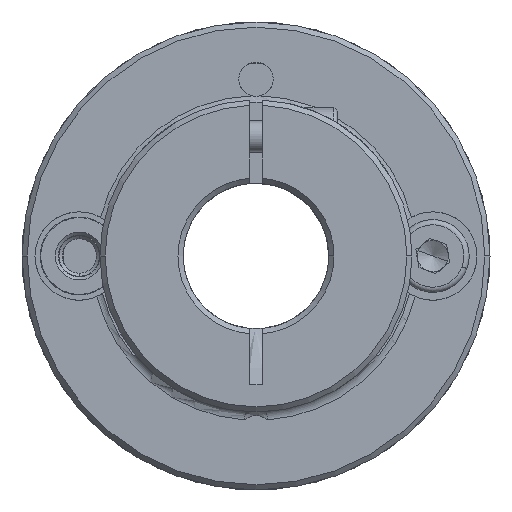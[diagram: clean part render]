
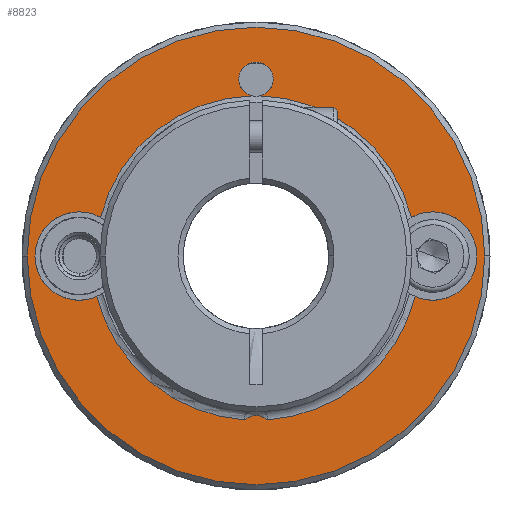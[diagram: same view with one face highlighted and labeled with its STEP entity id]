
A CAD part, front view. The second image highlights one B-rep face of the part: STEP entity #8823.
In plain terms, the highlighted planar face has unit normal (0, -1, 0).
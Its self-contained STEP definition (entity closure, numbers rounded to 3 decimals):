
#87 = CARTESIAN_POINT ( 'NONE',  ( -9.653, -8.743, 45. ) ) ;
#190 = CIRCLE ( 'NONE', #1607, 4.25 ) ;
#362 = DIRECTION ( 'NONE',  ( 0., 0., -1. ) ) ;
#365 = AXIS2_PLACEMENT_3D ( 'NONE', #5401, #8931, #13171 ) ;
#409 = DIRECTION ( 'NONE',  ( 1., 0., 0. ) ) ;
#542 = DIRECTION ( 'NONE',  ( 0., 1., 0. ) ) ;
#550 = DIRECTION ( 'NONE',  ( 1., 0., 0. ) ) ;
#602 = DIRECTION ( 'NONE',  ( 0., 1., 0. ) ) ;
#708 = CIRCLE ( 'NONE', #2021, 15.4 ) ;
#805 = CARTESIAN_POINT ( 'NONE',  ( -11.303, -8.743, 62. ) ) ;
#842 = CARTESIAN_POINT ( 'NONE',  ( -8.003, -8.743, 62. ) ) ;
#940 = DIRECTION ( 'NONE',  ( 1., 0., 0. ) ) ;
#960 = EDGE_CURVE ( 'NONE', #7378, #2301, #6361, .T. ) ;
#1459 = ORIENTED_EDGE ( 'NONE', *, *, #3843, .T. ) ;
#1490 = AXIS2_PLACEMENT_3D ( 'NONE', #1753, #7360, #13252 ) ;
#1559 = VERTEX_POINT ( 'NONE', #2518 ) ;
#1607 = AXIS2_PLACEMENT_3D ( 'NONE', #3873, #13170, #550 ) ;
#1753 = CARTESIAN_POINT ( 'NONE',  ( -9.653, -8.743, 45. ) ) ;
#1957 = CARTESIAN_POINT ( 'NONE',  ( 7.347, -8.743, 45. ) ) ;
#2021 = AXIS2_PLACEMENT_3D ( 'NONE', #5024, #8541, #10966 ) ;
#2198 = EDGE_CURVE ( 'NONE', #2301, #13811, #4316, .T. ) ;
#2301 = VERTEX_POINT ( 'NONE', #842 ) ;
#2465 = DIRECTION ( 'NONE',  ( 0., 1., 0. ) ) ;
#2518 = CARTESIAN_POINT ( 'NONE',  ( -24.964, -8.743, 41.1 ) ) ;
#2651 = DIRECTION ( 'NONE',  ( 0., -1., 0. ) ) ;
#2746 = CARTESIAN_POINT ( 'NONE',  ( -9.653, -8.743, 45. ) ) ;
#2936 = CARTESIAN_POINT ( 'NONE',  ( -9.653, -8.743, 62. ) ) ;
#3022 = VERTEX_POINT ( 'NONE', #9041 ) ;
#3174 = VERTEX_POINT ( 'NONE', #13854 ) ;
#3222 = CIRCLE ( 'NONE', #1490, 22. ) ;
#3289 = DIRECTION ( 'NONE',  ( 0., -1., 0. ) ) ;
#3466 = AXIS2_PLACEMENT_3D ( 'NONE', #5615, #3289, #6823 ) ;
#3588 = CIRCLE ( 'NONE', #4298, 1.65 ) ;
#3614 = EDGE_CURVE ( 'NONE', #7995, #3022, #5939, .T. ) ;
#3784 = AXIS2_PLACEMENT_3D ( 'NONE', #11633, #8203, #14174 ) ;
#3803 = VERTEX_POINT ( 'NONE', #14481 ) ;
#3820 = CARTESIAN_POINT ( 'NONE',  ( -9.27, -8.743, 60.395 ) ) ;
#3843 = EDGE_CURVE ( 'NONE', #5485, #7995, #7743, .T. ) ;
#3873 = CARTESIAN_POINT ( 'NONE',  ( -26.653, -8.743, 45. ) ) ;
#4298 = AXIS2_PLACEMENT_3D ( 'NONE', #2936, #542, #940 ) ;
#4316 = CIRCLE ( 'NONE', #365, 1.65 ) ;
#4329 = AXIS2_PLACEMENT_3D ( 'NONE', #2746, #10850, #12017 ) ;
#4909 = CARTESIAN_POINT ( 'NONE',  ( -31.653, -8.743, 45. ) ) ;
#5024 = CARTESIAN_POINT ( 'NONE',  ( -9.653, -8.743, 45. ) ) ;
#5073 = VERTEX_POINT ( 'NONE', #11583 ) ;
#5378 = EDGE_LOOP ( 'NONE', ( #7204, #10029 ) ) ;
#5401 = CARTESIAN_POINT ( 'NONE',  ( -9.653, -8.743, 62. ) ) ;
#5485 = VERTEX_POINT ( 'NONE', #8551 ) ;
#5570 = DIRECTION ( 'NONE',  ( 0., 1., 0. ) ) ;
#5615 = CARTESIAN_POINT ( 'NONE',  ( -9.653, -8.743, 28. ) ) ;
#5731 = CARTESIAN_POINT ( 'NONE',  ( 5.291, -8.743, 48.72 ) ) ;
#5746 = ORIENTED_EDGE ( 'NONE', *, *, #2198, .T. ) ;
#5773 = FACE_OUTER_BOUND ( 'NONE', #5378, .T. ) ;
#5827 = AXIS2_PLACEMENT_3D ( 'NONE', #14257, #2651, #362 ) ;
#5908 = CARTESIAN_POINT ( 'NONE',  ( -8.562, -8.743, 29.238 ) ) ;
#5939 = CIRCLE ( 'NONE', #8354, 15.4 ) ;
#5945 = CARTESIAN_POINT ( 'NONE',  ( -24.597, -8.743, 48.72 ) ) ;
#6361 = CIRCLE ( 'NONE', #14454, 1.65 ) ;
#6370 = CIRCLE ( 'NONE', #12591, 4.25 ) ;
#6560 = VERTEX_POINT ( 'NONE', #14957 ) ;
#6646 = DIRECTION ( 'NONE',  ( 1., 0., 0. ) ) ;
#6651 = VERTEX_POINT ( 'NONE', #4909 ) ;
#6823 = DIRECTION ( 'NONE',  ( -0.802, 0., 0.597 ) ) ;
#6910 = EDGE_CURVE ( 'NONE', #3174, #3803, #6370, .T. ) ;
#7083 = EDGE_CURVE ( 'NONE', #1559, #5485, #190, .T. ) ;
#7204 = ORIENTED_EDGE ( 'NONE', *, *, #14340, .T. ) ;
#7309 = CIRCLE ( 'NONE', #13008, 15.8 ) ;
#7360 = DIRECTION ( 'NONE',  ( 0., -1., 0. ) ) ;
#7378 = VERTEX_POINT ( 'NONE', #805 ) ;
#7476 = CARTESIAN_POINT ( 'NONE',  ( -26.653, -8.743, 45. ) ) ;
#7743 = CIRCLE ( 'NONE', #8853, 4.25 ) ;
#7850 = PLANE ( 'NONE',  #3466 ) ;
#7995 = VERTEX_POINT ( 'NONE', #5945 ) ;
#8020 = CARTESIAN_POINT ( 'NONE',  ( -9.653, -8.743, 62. ) ) ;
#8115 = DIRECTION ( 'NONE',  ( 1., 0., 0. ) ) ;
#8163 = EDGE_CURVE ( 'NONE', #13811, #11156, #708, .T. ) ;
#8203 = DIRECTION ( 'NONE',  ( 0., 1., 0. ) ) ;
#8354 = AXIS2_PLACEMENT_3D ( 'NONE', #87, #2465, #10484 ) ;
#8541 = DIRECTION ( 'NONE',  ( 0., 1., 0. ) ) ;
#8551 = CARTESIAN_POINT ( 'NONE',  ( -30.903, -8.743, 45. ) ) ;
#8605 = DIRECTION ( 'NONE',  ( 1., 0., 0. ) ) ;
#8636 = EDGE_CURVE ( 'NONE', #6560, #6651, #9398, .T. ) ;
#8734 = CIRCLE ( 'NONE', #3784, 15.8 ) ;
#8823 = ADVANCED_FACE ( 'NONE', ( #9944, #5773 ), #7850, .T. ) ;
#8853 = AXIS2_PLACEMENT_3D ( 'NONE', #7476, #14382, #8605 ) ;
#8906 = ORIENTED_EDGE ( 'NONE', *, *, #14069, .T. ) ;
#8909 = ORIENTED_EDGE ( 'NONE', *, *, #13941, .T. ) ;
#8931 = DIRECTION ( 'NONE',  ( 0., 1., 0. ) ) ;
#8953 = ORIENTED_EDGE ( 'NONE', *, *, #11879, .T. ) ;
#9041 = CARTESIAN_POINT ( 'NONE',  ( -10.037, -8.743, 60.395 ) ) ;
#9084 = DIRECTION ( 'NONE',  ( 1., 0., 0. ) ) ;
#9294 = DIRECTION ( 'NONE',  ( 0., 1., 0. ) ) ;
#9398 = CIRCLE ( 'NONE', #4329, 22. ) ;
#9539 = EDGE_LOOP ( 'NONE', ( #10086, #8953, #11400, #1459, #14823, #8909, #13749, #5746, #14470, #8906, #11612, #10987 ) ) ;
#9944 = FACE_BOUND ( 'NONE', #9539, .T. ) ;
#10029 = ORIENTED_EDGE ( 'NONE', *, *, #8636, .T. ) ;
#10086 = ORIENTED_EDGE ( 'NONE', *, *, #10183, .T. ) ;
#10183 = EDGE_CURVE ( 'NONE', #14580, #5073, #13538, .T. ) ;
#10484 = DIRECTION ( 'NONE',  ( 1., 0., 0. ) ) ;
#10850 = DIRECTION ( 'NONE',  ( 0., -1., 0. ) ) ;
#10966 = DIRECTION ( 'NONE',  ( 1., 0., 0. ) ) ;
#10987 = ORIENTED_EDGE ( 'NONE', *, *, #11394, .T. ) ;
#11156 = VERTEX_POINT ( 'NONE', #5731 ) ;
#11364 = DIRECTION ( 'NONE',  ( 0., 1., 0. ) ) ;
#11394 = EDGE_CURVE ( 'NONE', #3803, #14580, #7309, .T. ) ;
#11400 = ORIENTED_EDGE ( 'NONE', *, *, #7083, .T. ) ;
#11583 = CARTESIAN_POINT ( 'NONE',  ( -10.744, -8.743, 29.238 ) ) ;
#11612 = ORIENTED_EDGE ( 'NONE', *, *, #6910, .T. ) ;
#11633 = CARTESIAN_POINT ( 'NONE',  ( -9.653, -8.743, 45. ) ) ;
#11879 = EDGE_CURVE ( 'NONE', #5073, #1559, #8734, .T. ) ;
#12017 = DIRECTION ( 'NONE',  ( 1., 0., 0. ) ) ;
#12591 = AXIS2_PLACEMENT_3D ( 'NONE', #14749, #5570, #9084 ) ;
#12678 = CIRCLE ( 'NONE', #13355, 4.25 ) ;
#13008 = AXIS2_PLACEMENT_3D ( 'NONE', #13329, #602, #409 ) ;
#13170 = DIRECTION ( 'NONE',  ( 0., 1., 0. ) ) ;
#13171 = DIRECTION ( 'NONE',  ( 1., 0., 0. ) ) ;
#13252 = DIRECTION ( 'NONE',  ( 1., 0., 0. ) ) ;
#13329 = CARTESIAN_POINT ( 'NONE',  ( -9.653, -8.743, 45. ) ) ;
#13355 = AXIS2_PLACEMENT_3D ( 'NONE', #1957, #11364, #6646 ) ;
#13538 = CIRCLE ( 'NONE', #5827, 1.65 ) ;
#13749 = ORIENTED_EDGE ( 'NONE', *, *, #960, .T. ) ;
#13811 = VERTEX_POINT ( 'NONE', #3820 ) ;
#13854 = CARTESIAN_POINT ( 'NONE',  ( 11.597, -8.743, 45. ) ) ;
#13941 = EDGE_CURVE ( 'NONE', #3022, #7378, #3588, .T. ) ;
#14069 = EDGE_CURVE ( 'NONE', #11156, #3174, #12678, .T. ) ;
#14174 = DIRECTION ( 'NONE',  ( 1., 0., 0. ) ) ;
#14257 = CARTESIAN_POINT ( 'NONE',  ( -9.653, -8.743, 28. ) ) ;
#14340 = EDGE_CURVE ( 'NONE', #6651, #6560, #3222, .T. ) ;
#14382 = DIRECTION ( 'NONE',  ( 0., 1., 0. ) ) ;
#14454 = AXIS2_PLACEMENT_3D ( 'NONE', #8020, #9294, #8115 ) ;
#14470 = ORIENTED_EDGE ( 'NONE', *, *, #8163, .T. ) ;
#14481 = CARTESIAN_POINT ( 'NONE',  ( 5.658, -8.743, 41.1 ) ) ;
#14580 = VERTEX_POINT ( 'NONE', #5908 ) ;
#14749 = CARTESIAN_POINT ( 'NONE',  ( 7.347, -8.743, 45. ) ) ;
#14823 = ORIENTED_EDGE ( 'NONE', *, *, #3614, .T. ) ;
#14957 = CARTESIAN_POINT ( 'NONE',  ( 12.347, -8.743, 45. ) ) ;
